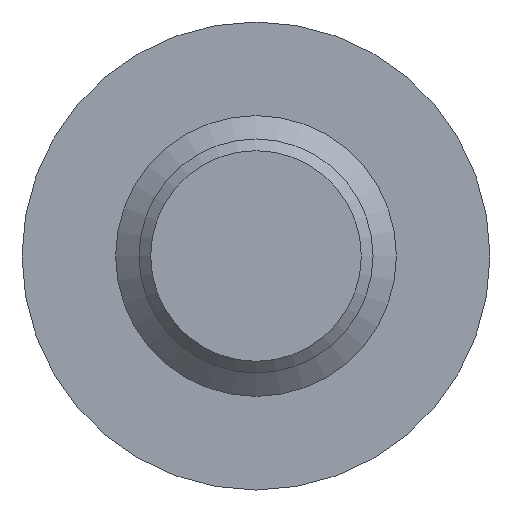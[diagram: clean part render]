
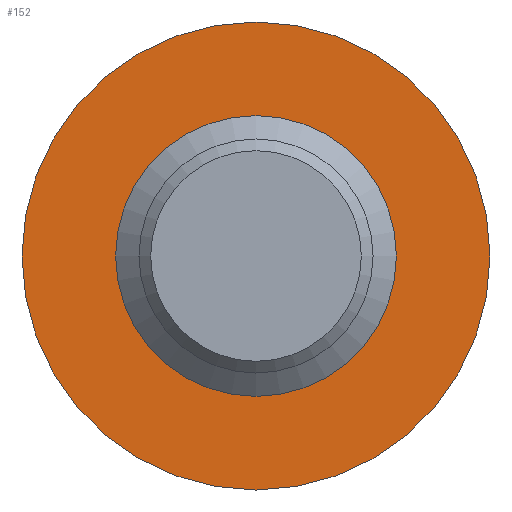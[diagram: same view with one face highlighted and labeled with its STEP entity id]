
A CAD part, front view. The second image highlights one B-rep face of the part: STEP entity #152.
In plain terms, the highlighted planar face has unit normal (0, -1, 0).
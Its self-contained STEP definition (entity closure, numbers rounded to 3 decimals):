
#15=FACE_BOUND('',#57,.T.);
#21=PLANE('',#195);
#45=FACE_OUTER_BOUND('',#56,.T.);
#56=EDGE_LOOP('',(#129));
#57=EDGE_LOOP('',(#130));
#67=CIRCLE('',#186,10.);
#72=CIRCLE('',#196,5.25);
#79=VERTEX_POINT('',#270);
#84=VERTEX_POINT('',#288);
#93=EDGE_CURVE('',#79,#79,#67,.T.);
#100=EDGE_CURVE('',#84,#84,#72,.T.);
#129=ORIENTED_EDGE('',*,*,#93,.F.);
#130=ORIENTED_EDGE('',*,*,#100,.F.);
#152=ADVANCED_FACE('',(#45,#15),#21,.F.);
#186=AXIS2_PLACEMENT_3D('',#272,#219,#220);
#195=AXIS2_PLACEMENT_3D('',#287,#239,#240);
#196=AXIS2_PLACEMENT_3D('',#289,#241,#242);
#219=DIRECTION('center_axis',(0.,1.,0.));
#220=DIRECTION('ref_axis',(1.,0.,0.));
#239=DIRECTION('center_axis',(0.,1.,0.));
#240=DIRECTION('ref_axis',(0.,0.,1.));
#241=DIRECTION('center_axis',(0.,-1.,0.));
#242=DIRECTION('ref_axis',(1.,0.,0.));
#270=CARTESIAN_POINT('',(-10.,65.7,0.));
#272=CARTESIAN_POINT('Origin',(0.,65.7,0.));
#287=CARTESIAN_POINT('Origin',(0.,65.7,0.));
#288=CARTESIAN_POINT('',(-5.25,65.7,0.));
#289=CARTESIAN_POINT('Origin',(0.,65.7,0.));
